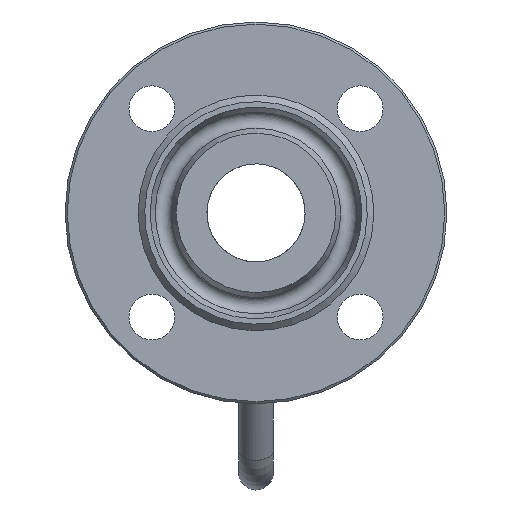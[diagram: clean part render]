
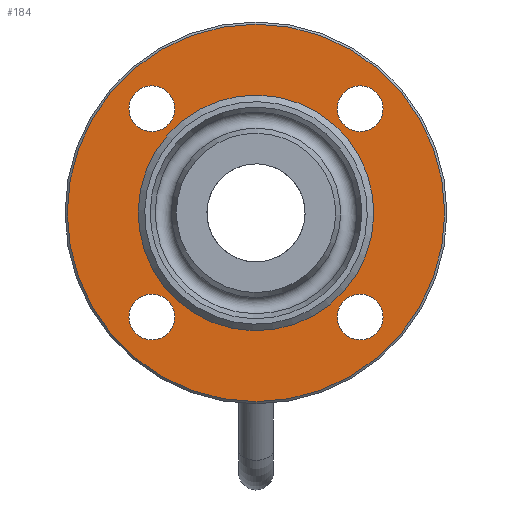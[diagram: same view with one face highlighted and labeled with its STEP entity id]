
A CAD part, left-side view. The second image highlights one B-rep face of the part: STEP entity #184.
In plain terms, the highlighted planar face has unit normal (-1, 0, 0).
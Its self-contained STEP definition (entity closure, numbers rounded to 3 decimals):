
#184=ADVANCED_FACE('',(#1557,#1559,#1561,#1563,#1565,#1567),#1569,.T.);
#1557=FACE_BOUND('',#1558,.T.);
#1558=EDGE_LOOP('',(#2424));
#1559=FACE_BOUND('',#1560,.T.);
#1560=EDGE_LOOP('',(#2425));
#1561=FACE_BOUND('',#1562,.T.);
#1562=EDGE_LOOP('',(#2426));
#1563=FACE_BOUND('',#1564,.T.);
#1564=EDGE_LOOP('',(#2427));
#1565=FACE_BOUND('',#1566,.T.);
#1566=EDGE_LOOP('',(#2428));
#1567=FACE_OUTER_BOUND('',#1568,.T.);
#1568=EDGE_LOOP('',(#2429));
#1569=PLANE('',#1570);
#1570=AXIS2_PLACEMENT_3D('',#1571,#1572,#1573);
#1571=CARTESIAN_POINT('',(-84.,0.,0.));
#1572=DIRECTION('',(-1.,0.,0.));
#1573=DIRECTION('',(0.,-1.,0.));
#2424=ORIENTED_EDGE('',*,*,#3402,.T.);
#2425=ORIENTED_EDGE('',*,*,#3403,.T.);
#2426=ORIENTED_EDGE('',*,*,#3405,.T.);
#2427=ORIENTED_EDGE('',*,*,#3407,.T.);
#2428=ORIENTED_EDGE('',*,*,#3430,.T.);
#2429=ORIENTED_EDGE('',*,*,#3431,.T.);
#3402=EDGE_CURVE('',#3782,#3782,#3784,.T.);
#3403=EDGE_CURVE('',#3785,#3785,#3786,.T.);
#3405=EDGE_CURVE('',#3788,#3788,#3789,.T.);
#3407=EDGE_CURVE('',#3791,#3791,#3792,.T.);
#3430=EDGE_CURVE('',#3829,#3829,#3830,.T.);
#3431=EDGE_CURVE('',#3831,#3831,#3832,.T.);
#3782=VERTEX_POINT('',#5414);
#3784=CIRCLE('',#5418,10.5);
#3785=VERTEX_POINT('',#5422);
#3786=CIRCLE('',#5423,10.5);
#3788=VERTEX_POINT('',#5430);
#3789=CIRCLE('',#5431,10.5);
#3791=VERTEX_POINT('',#5438);
#3792=CIRCLE('',#5439,10.5);
#3829=VERTEX_POINT('',#5649);
#3830=CIRCLE('',#5650,54.);
#3831=VERTEX_POINT('',#5654);
#3832=CIRCLE('',#5655,86.5);
#5414=CARTESIAN_POINT('',(-84.,47.73,-58.23));
#5418=AXIS2_PLACEMENT_3D('',#5419,#5420,#5421);
#5419=CARTESIAN_POINT('',(-84.,47.73,-47.73));
#5420=DIRECTION('',(1.,0.,0.));
#5421=DIRECTION('',(0.,0.,-1.));
#5422=CARTESIAN_POINT('',(-84.,58.23,47.73));
#5423=AXIS2_PLACEMENT_3D('',#5424,#5425,#5426);
#5424=CARTESIAN_POINT('',(-84.,47.73,47.73));
#5425=DIRECTION('',(1.,0.,0.));
#5426=DIRECTION('',(0.,1.,0.));
#5430=CARTESIAN_POINT('',(-84.,-47.73,58.23));
#5431=AXIS2_PLACEMENT_3D('',#5432,#5433,#5434);
#5432=CARTESIAN_POINT('',(-84.,-47.73,47.73));
#5433=DIRECTION('',(1.,0.,0.));
#5434=DIRECTION('',(0.,0.,1.));
#5438=CARTESIAN_POINT('',(-84.,-58.23,-47.73));
#5439=AXIS2_PLACEMENT_3D('',#5440,#5441,#5442);
#5440=CARTESIAN_POINT('',(-84.,-47.73,-47.73));
#5441=DIRECTION('',(1.,0.,0.));
#5442=DIRECTION('',(0.,-1.,0.));
#5649=CARTESIAN_POINT('',(-84.,40.489,35.73));
#5650=AXIS2_PLACEMENT_3D('',#5651,#5652,#5653);
#5651=CARTESIAN_POINT('',(-84.,0.,0.));
#5652=DIRECTION('',(1.,0.,0.));
#5653=DIRECTION('',(0.,0.75,0.662));
#5654=CARTESIAN_POINT('',(-84.,-86.5,0.));
#5655=AXIS2_PLACEMENT_3D('',#5656,#5657,#5658);
#5656=CARTESIAN_POINT('',(-84.,0.,0.));
#5657=DIRECTION('',(-1.,0.,0.));
#5658=DIRECTION('',(0.,-1.,0.));
